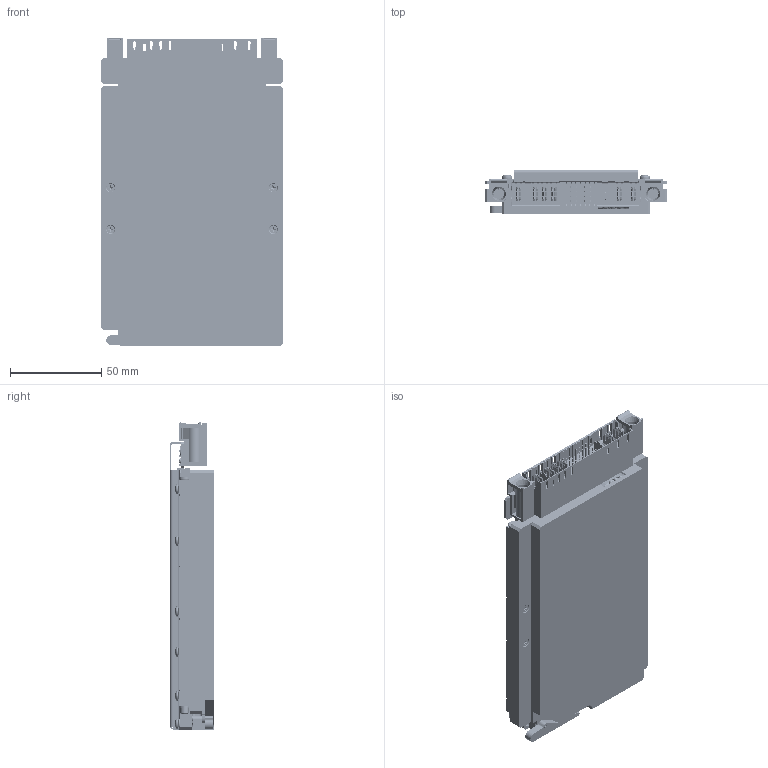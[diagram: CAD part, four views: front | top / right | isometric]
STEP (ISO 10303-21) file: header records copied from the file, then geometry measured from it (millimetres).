
FILE_DESCRIPTION (( 'STEP AP214' ), '1' );
FILE_NAME ('28V 3U VITA62 Power Supply.STEP', '2020-06-15T14:33:17', ( '' ), ( '' ), 'SwSTEP 2.0', 'SolidWorks 2019', '' );
FILE_SCHEMA (( 'AUTOMOTIVE_DESIGN' ));
Length unit declared in the file: inch
Products named in the file (213): RESC0402(1005)_M_RCR04F2803K1_1; RESC0805(2012)_N_RCN08B8202E3_1; RESC0402(1005)_L_RCR04B1301_2; CAPC0603(1608)55_L_CCC061225KX_5; SHCS_4-40X5000; CAPC1210(3225)115_N_CCC124475KX_1; RESC0402(1005)_N_RCR04F1002_3; CAPC1210(3225)115_N_CCC135106KX_1; STM-TSSOP20_V_AD5254BRUZ10_1; RGV0016A_V_INA3221AIRGVT_8; RESC0402(1005)_L_RCR04F1001_5; DCM-3623-TH_DCM3623T50M13C2T00_1; SOT23-5_L_LMP7701MF_1; RESC1206(3216)_L_RCR12J513_1_1; IHLP-4040DZ-8A-2.2UH+_IHLP4040DZER2R0_1; DFN-8-5x6_AON6250_1; RESC0402(1005)_N_RCR04F1501K1_3; WE_750315825_750315825_1; CAPAE-13DX20HX5P-HORZ2_CAOEE9681_1; KFS2-440; RESC0402(1005)_N_RCR04F2001_4; RESC0402(1005)_N_RCR04B2552_1; ONSC-SMB-2-403A-03_H_V_STPS5L60U_1; DGN0008C_N_TPS7A1650DGNR_1; RESC2512(6432)_L_RCSCRF0R004_7; VISHAY-IHLP-1212AE-11_IHLP1212AEERR22_2; RESC1210(3225)_N_B82422H1683K_3; BERGQUIST INDUCTOR PATTERN; CAPC1812(4532)150_L_CCC188104KX_4; RESC0402(1005)_N_RCN04B2211E1A_1; 2917_(7343)__4MM_CCT3D2331_1; RESC0402(1005)_N_RCN04B1652E1_1; 01-729-4012 Cover VITA Power Supply; ONSC-SOD-123-2-425-04_V_CMP-1060-00416-1_1; SLAB-SOIC-8_L_P82B96TDS900_1; Ejector - Left - Simon 450E-150LH; RESC0402(1005)_N_RCR04F1653_1; RESC0402(1005)_N_RCR04F49R9_3; 10-DFN-3x3_MP5000ADQ-LF-Z_1; SOT23-5_L_LP2980AIM5X-4.7_NOPB_1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
Assembly tree (488 placements, depth 3):
  28V 3U VITA62 Power Supply
    01-729-4011 Chassis
    01-729-4012 Cover VITA Power Supply
    02-WS-4BSS Bellville Washer #4  x12
    Panhead_4-40X250 PH SS - MMC 91735A102  x8
    02-SC-440-3_8 S    91772A108 PH PHILLIPS SCREW_91772A108  x4
    02-MS24693-2R5-2-56X313 FPS INV - MMC93085A019_93085A019  x4
    Wedge-Lok APW 42-5-10-LF - Assy
      Wedge-Lok APW 42-5-10-LF - Center
      Wedge-Lok APW 42-5-10-LF - Section  x2
      Wedge-Lok APW 42-5-10-LF - End  x2
      SHCS_4-40X5000
      FlatWasher_#4_NAS620-C4
      lockwasher#4 .031THK x .20OD
      KFS2-440
    Wedge-Lok APW 42-5-10-LF - Assy
      Wedge-Lok APW 42-5-10-LF - Center
      Wedge-Lok APW 42-5-10-LF - Section  x2
      Wedge-Lok APW 42-5-10-LF - End  x2
      SHCS_4-40X5000
      FlatWasher_#4_NAS620-C4
      lockwasher#4 .031THK x .20OD
      KFS2-440
    Ejector - Left - Simon 450E-150LH
    Spring Pin_094X500_MS16562-213
    01-729-4044 themal pad - top module  x7
    01-729-4045 themal pad - top module  x7
    01-729-4046 themal pad -module  x4
    01-729-4032 Thermal Pad  x2
    01-729-PC08-B
      BoardOutline_01-729-PC08-B
      CAPC1210(3225)115_L_CCC135106KX_1  x8
      CAPC1210(3225)115_N_CCC135106KX_1  x7
      CAPC0805(2012)100_N_CCC083225KX_2
      CAP-AL-10D-5L-13.5H-HORZ_CAPB85221_1_bent leads
      ONSC-SMB-2-403A-03_H_V_STPS5L60U_1
      RESC0402(1005)_N_RCN04B3202E1_1
      8-SO-STRETCHED_AMC1211A-Q1_1
      10-DFN-3x3_MP5000ADQ-LF-Z_1
      RESC0402(1005)_L_RCR04F15R0K1_1
      CAPC0402(1005)70_N_CCC043101JN_4  x2
      CAPC1210(3225)70_N_CCC132226KX_3  x12
      CAPC0402(1005)70_N_CCC043104KX_6  x44
      RESC0402(1005)_N_RCR04_NOPOP_4  x2
      SC70-LT6_L_ADG849YKSZ_1
      RESC1206(3216)_N_RCR12F1001_1
      RESC0402(1005)_L_RCR04F1001_5
      CAPC0402(1005)70_L_CCC043104KX_5  x5
      RESC0402(1005)_N_RCR04F5112_4
      VISHAY-IHLP-1212AE-11_IHLP1212AEERR22_2  x2
      CAPC0402(1005)70_N_CCC043103KX_4  x2
      VISH-DO-214AC-2_L_SK510A-LTP_1  x8
      EATON-FPV1006_FPT1006-340-R_1  x3
      DirectFET_Isometric_ME_IRF7480MT_1
      RESC0402(1005)_L_RCR04J100_3  x2
      RESC0402(1005)_L_RCR04F1002_3
      X2-DFN1006-2_BAS116LPH4-7B_5
      CAPC0402(1005)70_L_CCC043103KX_3  x2
      CAPC0603(1608)100_L_CCC062105KX_5  x2
      CAPC0805(2012)100_L_CCC082335MX_3
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Bounding box: 100 x 24.14 x 168.5 mm (x, y, z)
Volume: 209500.8 mm3; surface area: 202252.9 mm2
Topology: 1139 solids, 1488 shells, 24637 faces, 61600 edges, 39934 vertices
Faces by surface type: plane 14629, cylinder 5486, bspline 2334, torus 862, sphere 706, cone 620
Entity records: 505631 total; most frequent: CARTESIAN_POINT 135924, ORIENTED_EDGE 72794, DIRECTION 66024, EDGE_CURVE 36424, VERTEX_POINT 23908, LINE 22476, VECTOR 22476, AXIS2_PLACEMENT_3D 21774
